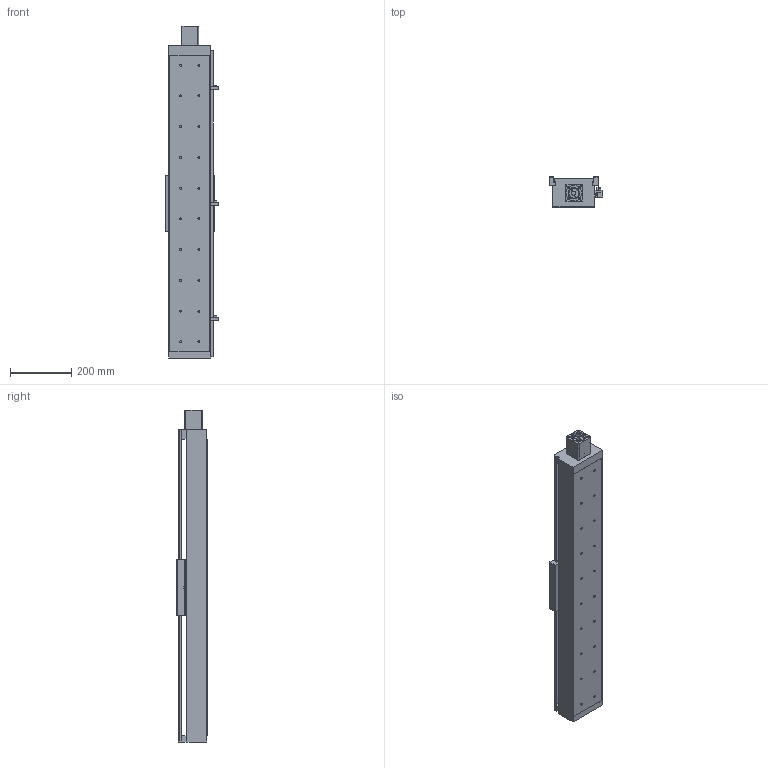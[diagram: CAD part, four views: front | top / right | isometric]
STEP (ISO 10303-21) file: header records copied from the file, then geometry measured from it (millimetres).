
FILE_DESCRIPTION((''),'2;1');
FILE_NAME('E:\libraries\UIA actuator library 2009\standard actuator\UIA136 ball screw 20\UIA136R15NDC-_ _ _-R20_ _-M60-P13-C10-S\UIA136R15NDC-750-R20_ _-M60-P13-C10-S.stp','2016-04-27T11:07:28',('h029'),(''),'Autodesk Inventor 11','Autodesk Inventor 11','');
FILE_SCHEMA(('AUTOMOTIVE_DESIGN { 1 0 10303 214 1 1 1 1 }'));
Length unit declared in the file: millimetre
Products named in the file (10): UIA136R15NDC-750; UIA136R15NDC-body; motor mount F60; SOH-32C; SOH-32C-3; SOH-32C-1; SOH-32C-2; Carriage; Sensor Switch; sensor rail
Assembly tree (9 placements, depth 3):
  UIA136R15NDC-750
    UIA136R15NDC-body
    motor mount F60
    SOH-32C
      SOH-32C-3
      SOH-32C-1
      SOH-32C-2
    Carriage
    Sensor Switch
    sensor rail
Bounding box: 174.5 x 98 x 1080 mm (x, y, z)
Volume: 4152281.5 mm3; surface area: 1135095.3 mm2
Topology: 8 solids, 8 shells, 503 faces, 1317 edges, 865 vertices
Faces by surface type: plane 311, bspline 150, cylinder 38, cone 4
Full cylindrical faces by diameter (mm): 2.459 x2, 3.242 x2, 4.5 x2, 5.5 x3, 7.5 x2, 10 x2, 12 x1, 14 x1, 32 x3, 37 x1, 41.9 x1, 42.1 x1, 43.5 x1
Entity records: 16515 total; most frequent: CARTESIAN_POINT 4946, ORIENTED_EDGE 2226, DIRECTION 2162, EDGE_CURVE 1113, VERTEX_POINT 800, VECTOR 790, LINE 790, EDGE_LOOP 769
